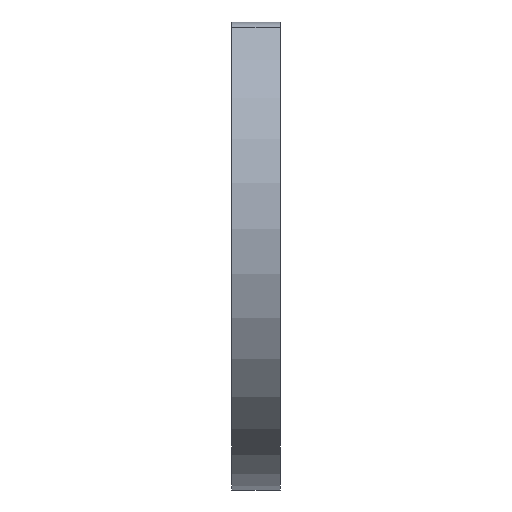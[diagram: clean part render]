
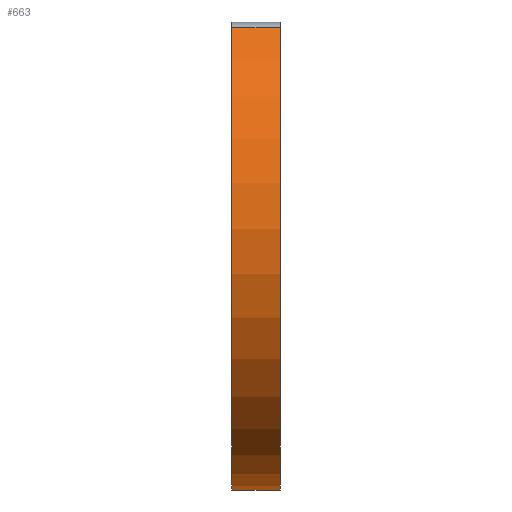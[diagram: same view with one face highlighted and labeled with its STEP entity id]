
A CAD part, left-side view. The second image highlights one B-rep face of the part: STEP entity #663.
In plain terms, the highlighted cylindrical face has radius 1.625 mm (diameter 3.25 mm), a partial arc.
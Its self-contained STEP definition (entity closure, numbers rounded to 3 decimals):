
#2 = EDGE_CURVE ( 'NONE', #257, #479, #654, .T. ) ;
#26 = DIRECTION ( 'NONE',  ( 0., -1., 0. ) ) ;
#28 = ORIENTED_EDGE ( 'NONE', *, *, #855, .T. ) ;
#50 = AXIS2_PLACEMENT_3D ( 'NONE', #524, #373, #889 ) ;
#58 = VECTOR ( 'NONE', #428, 1000. ) ;
#86 = CARTESIAN_POINT ( 'NONE',  ( -1.053, -0.15, 1.238 ) ) ;
#102 = ORIENTED_EDGE ( 'NONE', *, *, #132, .T. ) ;
#132 = EDGE_CURVE ( 'NONE', #479, #142, #367, .T. ) ;
#142 = VERTEX_POINT ( 'NONE', #930 ) ;
#154 = EDGE_LOOP ( 'NONE', ( #244, #28, #847, #102 ) ) ;
#177 = AXIS2_PLACEMENT_3D ( 'NONE', #628, #690, #773 ) ;
#200 = VECTOR ( 'NONE', #248, 1000. ) ;
#244 = ORIENTED_EDGE ( 'NONE', *, *, #645, .F. ) ;
#248 = DIRECTION ( 'NONE',  ( 0., -1., 0. ) ) ;
#257 = VERTEX_POINT ( 'NONE', #579 ) ;
#270 = CYLINDRICAL_SURFACE ( 'NONE', #826, 1.625 ) ;
#302 = DIRECTION ( 'NONE',  ( 0., 0., -1. ) ) ;
#367 = LINE ( 'NONE', #704, #58 ) ;
#373 = DIRECTION ( 'NONE',  ( 0., 1., 0. ) ) ;
#383 = LINE ( 'NONE', #545, #200 ) ;
#428 = DIRECTION ( 'NONE',  ( 0., 1., 0. ) ) ;
#448 = CARTESIAN_POINT ( 'NONE',  ( 0., 0.15, 0. ) ) ;
#479 = VERTEX_POINT ( 'NONE', #86 ) ;
#524 = CARTESIAN_POINT ( 'NONE',  ( 0., 0.15, 0. ) ) ;
#545 = CARTESIAN_POINT ( 'NONE',  ( 0., 0.15, -1.625 ) ) ;
#579 = CARTESIAN_POINT ( 'NONE',  ( 0., -0.15, -1.625 ) ) ;
#628 = CARTESIAN_POINT ( 'NONE',  ( 0., -0.15, 0. ) ) ;
#644 = VERTEX_POINT ( 'NONE', #666 ) ;
#645 = EDGE_CURVE ( 'NONE', #644, #142, #820, .T. ) ;
#654 = CIRCLE ( 'NONE', #177, 1.625 ) ;
#663 = ADVANCED_FACE ( 'NONE', ( #800 ), #270, .T. ) ;
#666 = CARTESIAN_POINT ( 'NONE',  ( 0., 0.15, -1.625 ) ) ;
#690 = DIRECTION ( 'NONE',  ( 0., 1., 0. ) ) ;
#704 = CARTESIAN_POINT ( 'NONE',  ( -1.053, 0.15, 1.238 ) ) ;
#773 = DIRECTION ( 'NONE',  ( 0., 0., 1. ) ) ;
#800 = FACE_OUTER_BOUND ( 'NONE', #154, .T. ) ;
#820 = CIRCLE ( 'NONE', #50, 1.625 ) ;
#826 = AXIS2_PLACEMENT_3D ( 'NONE', #448, #26, #302 ) ;
#847 = ORIENTED_EDGE ( 'NONE', *, *, #2, .T. ) ;
#855 = EDGE_CURVE ( 'NONE', #644, #257, #383, .T. ) ;
#889 = DIRECTION ( 'NONE',  ( 0., 0., 1. ) ) ;
#930 = CARTESIAN_POINT ( 'NONE',  ( -1.053, 0.15, 1.238 ) ) ;
